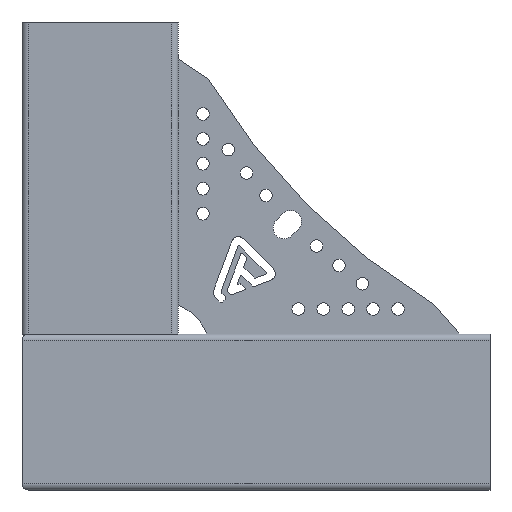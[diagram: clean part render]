
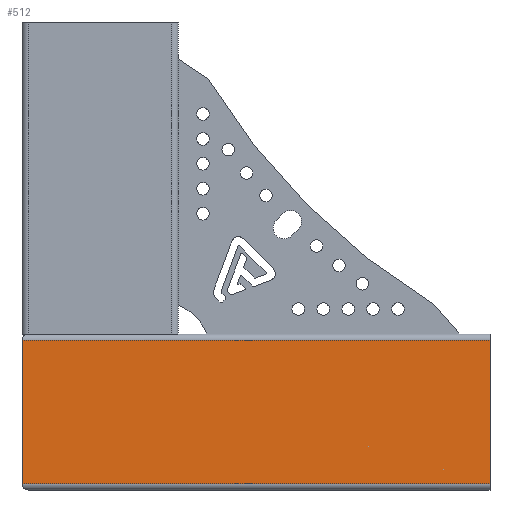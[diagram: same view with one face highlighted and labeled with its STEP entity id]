
A CAD part, front view. The second image highlights one B-rep face of the part: STEP entity #512.
In plain terms, the highlighted planar face has unit normal (0, -1, 0).
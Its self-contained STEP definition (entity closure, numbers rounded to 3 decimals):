
#512=ADVANCED_FACE('',(#2342),#2344,.T.);
#2342=FACE_BOUND('',#2343,.T.);
#2343=EDGE_LOOP('',(#4321,#4322,#4323,#4324));
#2344=PLANE('',#2345);
#2345=AXIS2_PLACEMENT_3D('',#2346,#2347,#2348);
#2346=CARTESIAN_POINT('',(-300.,-50.,46.));
#2347=DIRECTION('',(0.,-1.,0.));
#2348=DIRECTION('',(0.,0.,-1.));
#4321=ORIENTED_EDGE('',*,*,#5683,.T.);
#4322=ORIENTED_EDGE('',*,*,#5712,.T.);
#4323=ORIENTED_EDGE('',*,*,#5697,.F.);
#4324=ORIENTED_EDGE('',*,*,#5713,.F.);
#5683=EDGE_CURVE('',#6411,#6409,#6412,.F.);
#5697=EDGE_CURVE('',#6435,#6437,#6438,.T.);
#5712=EDGE_CURVE('',#6409,#6437,#6460,.T.);
#5713=EDGE_CURVE('',#6411,#6435,#6461,.T.);
#6409=VERTEX_POINT('',#7657);
#6411=VERTEX_POINT('',#7662);
#6412=LINE('',#7663,#7664);
#6435=VERTEX_POINT('',#7718);
#6437=VERTEX_POINT('',#7723);
#6438=LINE('',#7724,#7725);
#6460=LINE('',#7782,#7783);
#6461=LINE('',#7785,#7786);
#7657=CARTESIAN_POINT('',(-300.,-50.,-46.));
#7662=CARTESIAN_POINT('',(-300.,-50.,46.));
#7663=CARTESIAN_POINT('',(-300.,-50.,-46.));
#7664=VECTOR('',#7665,1.);
#7665=DIRECTION('',(0.,0.,1.));
#7718=CARTESIAN_POINT('',(0.,-50.,46.));
#7723=CARTESIAN_POINT('',(0.,-50.,-46.));
#7724=CARTESIAN_POINT('',(0.,-50.,46.));
#7725=VECTOR('',#7726,1.);
#7726=DIRECTION('',(0.,0.,-1.));
#7782=CARTESIAN_POINT('',(-300.,-50.,-46.));
#7783=VECTOR('',#7784,1.);
#7784=DIRECTION('',(1.,0.,0.));
#7785=CARTESIAN_POINT('',(-300.,-50.,46.));
#7786=VECTOR('',#7787,1.);
#7787=DIRECTION('',(1.,0.,0.));
